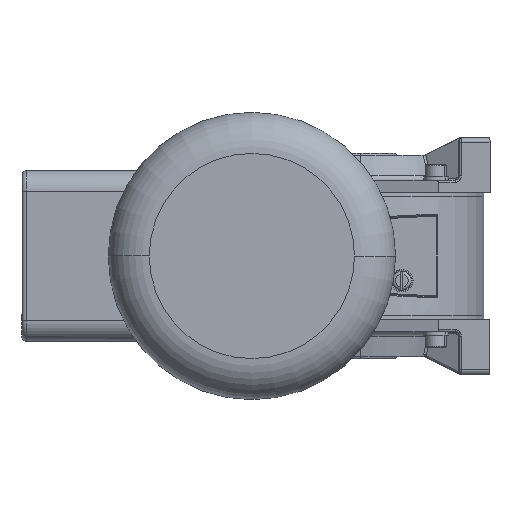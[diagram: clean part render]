
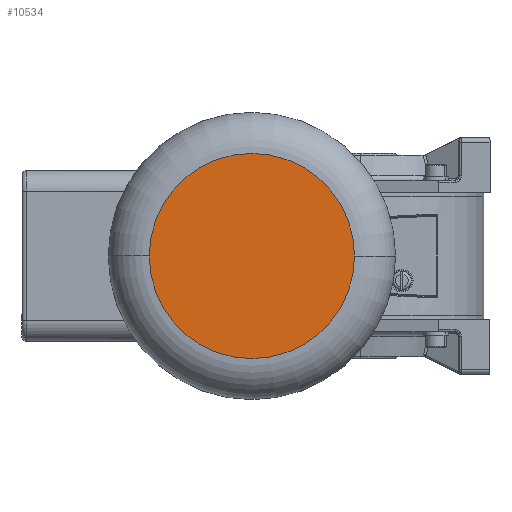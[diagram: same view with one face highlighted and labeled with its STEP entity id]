
A CAD part, left-side view. The second image highlights one B-rep face of the part: STEP entity #10534.
In plain terms, the highlighted planar face has unit normal (-1, 0, 0).
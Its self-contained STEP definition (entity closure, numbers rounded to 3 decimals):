
#68 = CARTESIAN_POINT ( 'NONE',  ( 0., 0., 50. ) ) ;
#1086 = CARTESIAN_POINT ( 'NONE',  ( 0., 0., 0. ) ) ;
#1146 = AXIS2_PLACEMENT_3D ( 'NONE', #15460, #1652, #12862 ) ;
#1180 = DIRECTION ( 'NONE',  ( 0., 0., -1. ) ) ;
#1652 = DIRECTION ( 'NONE',  ( -1., 0., 0. ) ) ;
#2258 = ORIENTED_EDGE ( 'NONE', *, *, #15539, .T. ) ;
#2734 = DIRECTION ( 'NONE',  ( 0., 0., -1. ) ) ;
#2887 = EDGE_LOOP ( 'NONE', ( #2258, #9562 ) ) ;
#5956 = CIRCLE ( 'NONE', #7012, 50. ) ;
#6992 = CARTESIAN_POINT ( 'NONE',  ( 0., 0., -50. ) ) ;
#7012 = AXIS2_PLACEMENT_3D ( 'NONE', #1086, #11306, #1180 ) ;
#7754 = FACE_OUTER_BOUND ( 'NONE', #2887, .T. ) ;
#7784 = AXIS2_PLACEMENT_3D ( 'NONE', #13916, #16535, #2734 ) ;
#8669 = CIRCLE ( 'NONE', #1146, 50. ) ;
#9175 = EDGE_CURVE ( 'NONE', #9555, #11674, #5956, .T. ) ;
#9555 = VERTEX_POINT ( 'NONE', #68 ) ;
#9562 = ORIENTED_EDGE ( 'NONE', *, *, #9175, .T. ) ;
#10534 = ADVANCED_FACE ( 'NONE', ( #7754 ), #15360, .F. ) ;
#11306 = DIRECTION ( 'NONE',  ( -1., 0., 0. ) ) ;
#11674 = VERTEX_POINT ( 'NONE', #6992 ) ;
#12862 = DIRECTION ( 'NONE',  ( 0., 0., -1. ) ) ;
#13916 = CARTESIAN_POINT ( 'NONE',  ( 0., 0., 0. ) ) ;
#15360 = PLANE ( 'NONE',  #7784 ) ;
#15460 = CARTESIAN_POINT ( 'NONE',  ( 0., 0., 0. ) ) ;
#15539 = EDGE_CURVE ( 'NONE', #11674, #9555, #8669, .T. ) ;
#16535 = DIRECTION ( 'NONE',  ( 1., 0., 0. ) ) ;
